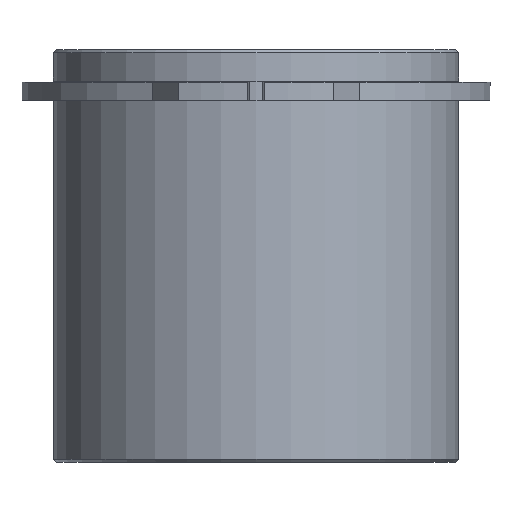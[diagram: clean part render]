
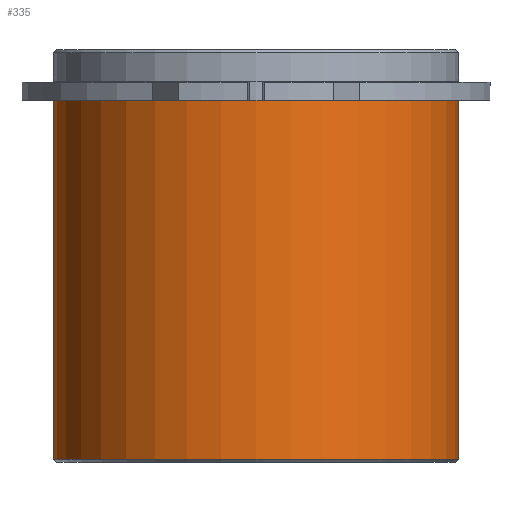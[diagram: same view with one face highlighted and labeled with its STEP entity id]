
A CAD part, front view. The second image highlights one B-rep face of the part: STEP entity #335.
In plain terms, the highlighted cylindrical face has radius 19.625 mm (diameter 39.25 mm), a partial arc.
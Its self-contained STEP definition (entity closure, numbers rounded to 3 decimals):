
#294=CARTESIAN_POINT('',(0.0,0.,-17.4));
#295=DIRECTION('',(0.0,0.,1.0));
#296=DIRECTION('',(1.0,0.0,0.0));
#297=AXIS2_PLACEMENT_3D('',#294,#295,#296);
#298=CYLINDRICAL_SURFACE('',#297,19.625);
#299=CARTESIAN_POINT('',(19.625,0.0,0.0));
#300=VERTEX_POINT('',#299);
#301=CARTESIAN_POINT('',(19.625,0.,-34.8));
#302=VERTEX_POINT('',#301);
#303=CARTESIAN_POINT('',(19.625,0.0,0.0));
#304=DIRECTION('',(0.0,0.0,-1.0));
#305=VECTOR('',#304,34.8);
#306=LINE('',#303,#305);
#307=EDGE_CURVE('',#300,#302,#306,.T.);
#308=ORIENTED_EDGE('',*,*,#307,.F.);
#309=CARTESIAN_POINT('',(-19.625,0.,0.0));
#310=VERTEX_POINT('',#309);
#311=CARTESIAN_POINT('',(0.0,0.0,0.0));
#312=DIRECTION('',(0.0,0.0,1.0));
#313=DIRECTION('',(1.0,0.0,0.0));
#314=AXIS2_PLACEMENT_3D('',#311,#312,#313);
#315=CIRCLE('',#314,19.625);
#316=EDGE_CURVE('',#310,#300,#315,.T.);
#317=ORIENTED_EDGE('',*,*,#316,.F.);
#318=CARTESIAN_POINT('',(-19.625,0.,-34.8));
#319=VERTEX_POINT('',#318);
#320=CARTESIAN_POINT('',(-19.625,0.,0.0));
#321=DIRECTION('',(0.0,0.0,-1.0));
#322=VECTOR('',#321,34.8);
#323=LINE('',#320,#322);
#324=EDGE_CURVE('',#310,#319,#323,.T.);
#325=ORIENTED_EDGE('',*,*,#324,.T.);
#326=CARTESIAN_POINT('',(0.0,0.,-34.8));
#327=DIRECTION('',(0.0,0.0,1.0));
#328=DIRECTION('',(1.0,0.0,0.0));
#329=AXIS2_PLACEMENT_3D('',#326,#327,#328);
#330=CIRCLE('',#329,19.625);
#331=EDGE_CURVE('',#319,#302,#330,.T.);
#332=ORIENTED_EDGE('',*,*,#331,.T.);
#333=EDGE_LOOP('',(#308,#317,#325,#332));
#334=FACE_OUTER_BOUND('',#333,.T.);
#335=ADVANCED_FACE('',(#334),#298,.T.);
